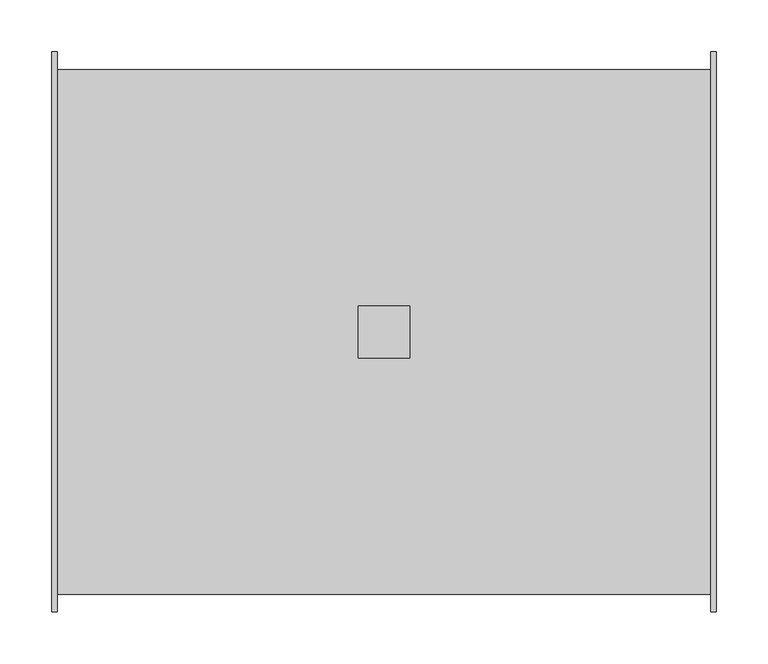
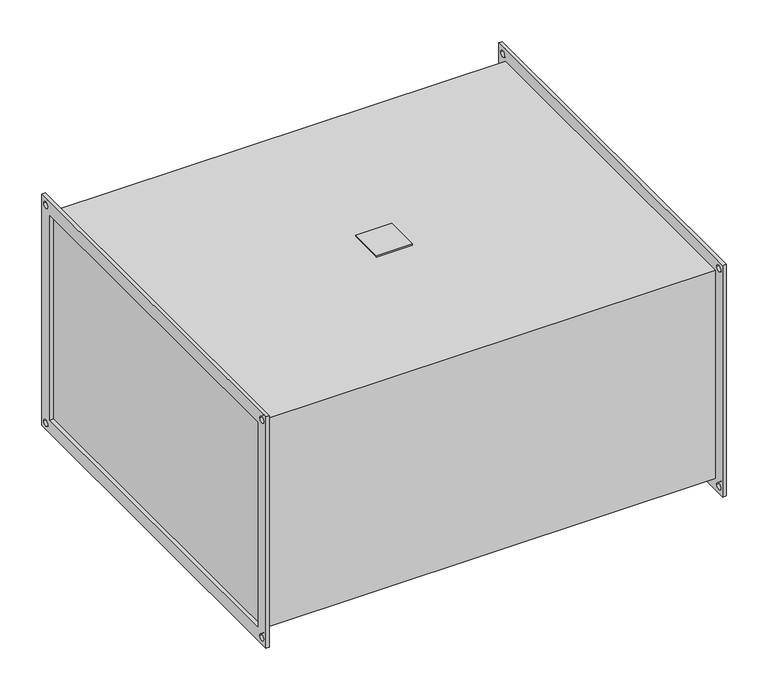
"""IFC4 building model written with IfcOpenShell, lengths in millimetres: damper geometry, KORF_Фильтр_Карманный_FKR : FKR 50-30  EU3."""

from ifc_helpers import new_model, si_unit, point, frame, frame_2d, origin, place, context, project, spatial, polyline, circle_curve, trimmed, segment, composite_curve, outline, extrude, source, transform, mapped, element, save


def damper_4dbe8409(model_context):
    return source(origin(), model_context, "Body", "SweptSolid", [
        extrude(outline(polyline([(295.0, -25.0), (295.0, 25.0), (345.0, 25.0), (345.0, -25.0), (295.0, -25.0)])), frame((0.0, 0.0, 153.0), z_axis=(0.0, 0.0, 1.0), x_axis=(1.0, 0.0, 0.0)), (0.0, 0.0, 1.0), 2.0),
        extrude(outline(polyline([(-270.0, 170.0), (270.0, 170.0), (270.0, -170.0), (-270.0, -170.0), (-270.0, 170.0)]), holes=[polyline([(-250.0, 150.0), (-250.0, -150.0), (250.0, -150.0), (250.0, 150.0), (-250.0, 150.0)]), composite_curve([segment(trimmed(circle_curve(frame_2d((260.0, 160.0)), 4.5), [point((255.5, 160.0))], [point((264.5, 160.0))], True, "CARTESIAN"), True, "CONTINUOUS"), segment(trimmed(circle_curve(frame_2d((260.0, 160.0)), 4.5), [point((264.5, 160.0))], [point((255.5, 160.0))], True, "CARTESIAN"), True, "CONTINUOUS")], self_intersect=False), composite_curve([segment(trimmed(circle_curve(frame_2d((-260.0, 160.0)), 4.5), [point((-264.5, 160.0))], [point((-255.5, 160.0))], True, "CARTESIAN"), True, "CONTINUOUS"), segment(trimmed(circle_curve(frame_2d((-260.0, 160.0)), 4.5), [point((-255.5, 160.0))], [point((-264.5, 160.0))], True, "CARTESIAN"), True, "CONTINUOUS")], self_intersect=False), composite_curve([segment(trimmed(circle_curve(frame_2d((-260.0, -160.0)), 4.5), [point((-264.5, -160.0))], [point((-255.5, -160.0))], True, "CARTESIAN"), True, "CONTINUOUS"), segment(trimmed(circle_curve(frame_2d((-260.0, -160.0)), 4.5), [point((-255.5, -160.0))], [point((-264.5, -160.0))], True, "CARTESIAN"), True, "CONTINUOUS")], self_intersect=False), composite_curve([segment(trimmed(circle_curve(frame_2d((260.0, -160.0)), 4.5), [point((255.5, -160.0))], [point((264.5, -160.0))], True, "CARTESIAN"), True, "CONTINUOUS"), segment(trimmed(circle_curve(frame_2d((260.0, -160.0)), 4.5), [point((264.5, -160.0))], [point((255.5, -160.0))], True, "CARTESIAN"), True, "CONTINUOUS")], self_intersect=False)]), frame((635.0, 0.0, 0.0), z_axis=(1.0, 0.0, 0.0), x_axis=(0.0, 1.0, 0.0)), (0.0, 0.0, 1.0), 5.0),
        extrude(outline(polyline([(-270.0, 170.0), (270.0, 170.0), (270.0, -170.0), (-270.0, -170.0), (-270.0, 170.0)]), holes=[polyline([(-250.0, 150.0), (-250.0, -150.0), (250.0, -150.0), (250.0, 150.0), (-250.0, 150.0)]), composite_curve([segment(trimmed(circle_curve(frame_2d((260.0, 160.0)), 4.5), [point((255.5, 160.0))], [point((264.5, 160.0))], True, "CARTESIAN"), True, "CONTINUOUS"), segment(trimmed(circle_curve(frame_2d((260.0, 160.0)), 4.5), [point((264.5, 160.0))], [point((255.5, 160.0))], True, "CARTESIAN"), True, "CONTINUOUS")], self_intersect=False), composite_curve([segment(trimmed(circle_curve(frame_2d((-260.0, 160.0)), 4.5), [point((-264.5, 160.0))], [point((-255.5, 160.0))], True, "CARTESIAN"), True, "CONTINUOUS"), segment(trimmed(circle_curve(frame_2d((-260.0, 160.0)), 4.5), [point((-255.5, 160.0))], [point((-264.5, 160.0))], True, "CARTESIAN"), True, "CONTINUOUS")], self_intersect=False), composite_curve([segment(trimmed(circle_curve(frame_2d((-260.0, -160.0)), 4.5), [point((-264.5, -160.0))], [point((-255.5, -160.0))], True, "CARTESIAN"), True, "CONTINUOUS"), segment(trimmed(circle_curve(frame_2d((-260.0, -160.0)), 4.5), [point((-255.5, -160.0))], [point((-264.5, -160.0))], True, "CARTESIAN"), True, "CONTINUOUS")], self_intersect=False), composite_curve([segment(trimmed(circle_curve(frame_2d((260.0, -160.0)), 4.5), [point((255.5, -160.0))], [point((264.5, -160.0))], True, "CARTESIAN"), True, "CONTINUOUS"), segment(trimmed(circle_curve(frame_2d((260.0, -160.0)), 4.5), [point((264.5, -160.0))], [point((255.5, -160.0))], True, "CARTESIAN"), True, "CONTINUOUS")], self_intersect=False)]), frame((0.0, 0.0, 0.0), z_axis=(1.0, 0.0, 0.0), x_axis=(0.0, 1.0, 0.0)), (0.0, 0.0, 1.0), 5.0),
        extrude(outline(polyline([(635.0, 253.0), (635.0, -253.0), (5.0, -253.0), (5.0, 253.0), (635.0, 253.0)])), frame((0.0, 0.0, -153.0), z_axis=(0.0, 0.0, 1.0), x_axis=(1.0, 0.0, 0.0)), (0.0, 0.0, 1.0), 306.0),
    ])


if __name__ == "__main__":
    model = new_model("IFC4")
    model_context = context("Model", 3, world=origin())
    ifc_project = project(units=[si_unit("LENGTHUNIT", "METRE", prefix="MILLI")], contexts=[model_context])
    site = spatial("IfcSite", under=ifc_project)
    building = spatial("IfcBuilding", under=site)
    placement = place(None, origin())
    damper_shape = damper_4dbe8409(model_context)
    element("IfcDamper", 1, ObjectType="KORF_Фильтр_Карманный_FKR : FKR 50-30  EU3", at=placement, inside=building, context=model_context, shape_type="MappedRepresentation", body=[
        mapped(damper_shape, transform((0.0, 0.0, 0.0), x_axis=(1.0, 0.0, 0.0), y_axis=(0.0, 1.0, 0.0), z_axis=(0.0, 0.0, 1.0))),
    ])
    save(model, "model.ifc")
